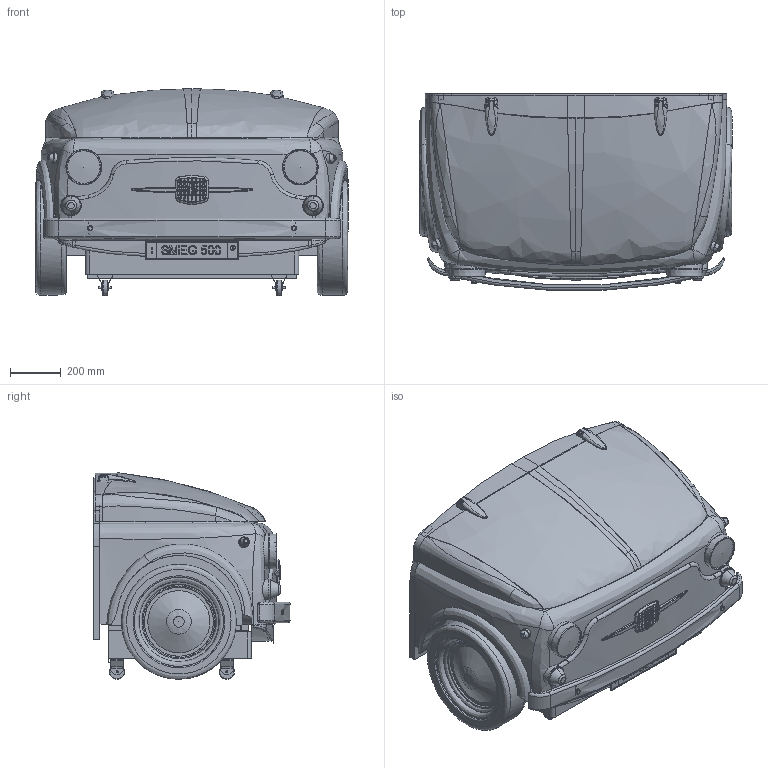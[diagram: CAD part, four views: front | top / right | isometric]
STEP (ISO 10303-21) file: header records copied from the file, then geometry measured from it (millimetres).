
FILE_DESCRIPTION(/* description */ (''),/* implementation_level */ '2;1');
FILE_NAME(/* name */ 'smeg500_7.stp',/* time_stamp */ '2018-05-08T17:10:20+02:00',/* author */ (''),/* organization */ (''),/* preprocessor_version */ 'ST-DEVELOPER v16',/* originating_system */ 'SIEMENS PLM Software NX 11.0',/* authorisation */ '');
FILE_SCHEMA (('AUTOMOTIVE_DESIGN { 1 0 10303 214 3 1 1 1 }'));
Length unit declared in the file: millimetre
Products named in the file (1): gobb235014CAedyq
Bounding box: 1226.33 x 771.16 x 811.35 mm (x, y, z)
Volume: 447412852.4 mm3; surface area: 12697229.7 mm2
Topology: 60 solids, 60 shells, 1855 faces, 4583 edges, 2815 vertices
Faces by surface type: plane 722, bspline 585, cylinder 356, torus 83, cone 49, sphere 40, extrusion 20
Full cylindrical faces by diameter (mm): 0.061 x2, 5 x8, 8.2 x12, 10 x2, 16 x2, 18 x1, 20 x3, 30 x2, 60 x4, 80 x1, 80.005 x1, 128 x2, 140 x2, 270.838 x2, 312.927 x2, 350 x2, 350.44 x2, 450 x2
Entity records: 128098 total; most frequent: CARTESIAN_POINT 89553, ORIENTED_EDGE 8734, DIRECTION 6140, EDGE_CURVE 4367, VERTEX_POINT 2775, AXIS2_PLACEMENT_3D 2176, EDGE_LOOP 2022, ADVANCED_FACE 1855
